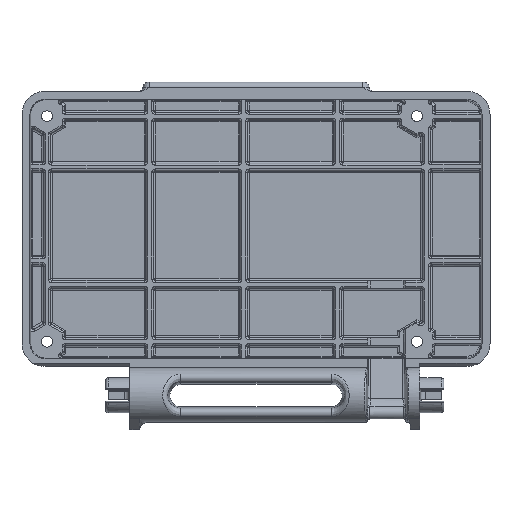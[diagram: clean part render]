
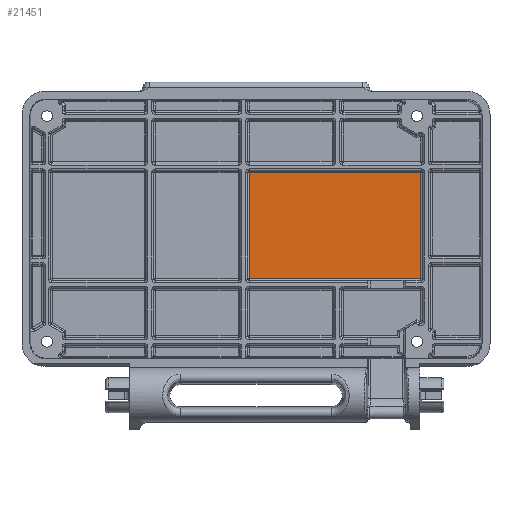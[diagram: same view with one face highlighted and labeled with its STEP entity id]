
A CAD part, front view. The second image highlights one B-rep face of the part: STEP entity #21451.
In plain terms, the highlighted planar face has unit normal (0, -1, 0).
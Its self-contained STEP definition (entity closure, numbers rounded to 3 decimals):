
#699=PLANE('',#22933);
#1141=FACE_OUTER_BOUND('',#2511,.T.);
#2511=EDGE_LOOP('',(#15183,#15184,#15185,#15186));
#5855=LINE('',#32665,#7448);
#5857=LINE('',#32672,#7450);
#5858=LINE('',#32674,#7451);
#5859=LINE('',#32675,#7452);
#7448=VECTOR('',#25354,10.);
#7450=VECTOR('',#25362,10.);
#7451=VECTOR('',#25363,10.);
#7452=VECTOR('',#25364,10.);
#9358=VERTEX_POINT('',#32663);
#9359=VERTEX_POINT('',#32664);
#9361=VERTEX_POINT('',#32671);
#9362=VERTEX_POINT('',#32673);
#11535=EDGE_CURVE('',#9358,#9359,#5855,.T.);
#11539=EDGE_CURVE('',#9361,#9358,#5857,.T.);
#11540=EDGE_CURVE('',#9362,#9361,#5858,.T.);
#11541=EDGE_CURVE('',#9359,#9362,#5859,.T.);
#15183=ORIENTED_EDGE('',*,*,#11535,.F.);
#15184=ORIENTED_EDGE('',*,*,#11539,.F.);
#15185=ORIENTED_EDGE('',*,*,#11540,.F.);
#15186=ORIENTED_EDGE('',*,*,#11541,.F.);
#21451=ADVANCED_FACE('',(#1141),#699,.F.);
#22933=AXIS2_PLACEMENT_3D('',#32670,#25360,#25361);
#25354=DIRECTION('',(1.,0.,0.));
#25360=DIRECTION('center_axis',(0.,1.,0.));
#25361=DIRECTION('ref_axis',(1.,0.,0.));
#25362=DIRECTION('',(0.,0.,1.));
#25363=DIRECTION('',(-1.,0.,0.));
#25364=DIRECTION('',(0.,0.,-1.));
#32663=CARTESIAN_POINT('',(48.435,5.05,-17.355));
#32664=CARTESIAN_POINT('',(84.936,5.05,-17.355));
#32665=CARTESIAN_POINT('',(27.489,5.05,-17.355));
#32670=CARTESIAN_POINT('Origin',(49.83,5.05,-29.33));
#32671=CARTESIAN_POINT('',(48.435,5.05,-39.95));
#32672=CARTESIAN_POINT('',(48.435,5.05,-43.495));
#32673=CARTESIAN_POINT('',(84.936,5.05,-39.95));
#32674=CARTESIAN_POINT('',(68.013,5.05,-39.95));
#32675=CARTESIAN_POINT('',(84.936,5.05,-18.218));
